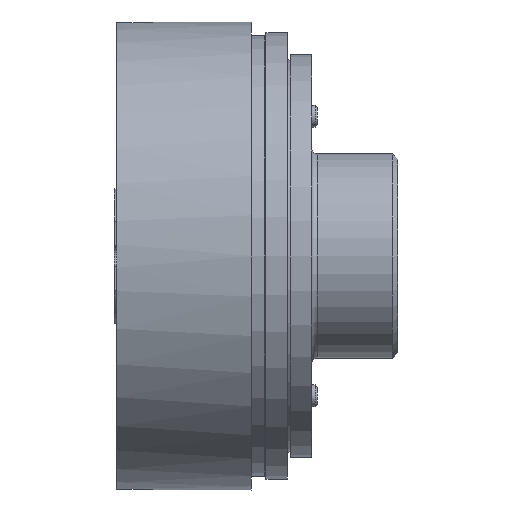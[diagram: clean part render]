
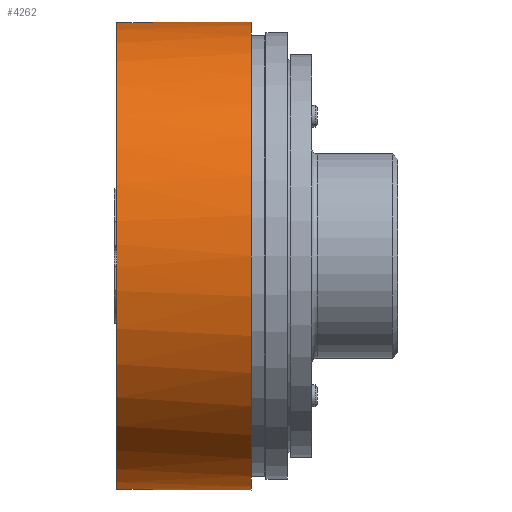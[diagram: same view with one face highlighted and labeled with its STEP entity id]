
A CAD part, front view. The second image highlights one B-rep face of the part: STEP entity #4262.
In plain terms, the highlighted cylindrical face has radius 43.5 mm (diameter 87 mm), a full revolution.
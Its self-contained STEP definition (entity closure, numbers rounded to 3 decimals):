
#161=FACE_BOUND('',#1149,.T.);
#162=FACE_BOUND('',#1150,.T.);
#253=LINE('',#6228,#396);
#254=LINE('',#6230,#397);
#396=VECTOR('',#4937,0.5);
#397=VECTOR('',#4938,0.5);
#814=FACE_OUTER_BOUND('',#1148,.T.);
#1148=EDGE_LOOP('',(#3423,#3424));
#1149=EDGE_LOOP('',(#3425,#3426,#3427,#3428,#3429,#3430));
#1150=EDGE_LOOP('',(#3431));
#1531=CIRCLE('',#4708,43.5);
#1532=CIRCLE('',#4710,43.5);
#1544=CIRCLE('',#4735,43.5);
#1633=B_SPLINE_CURVE_WITH_KNOTS('',3,(#6184,#6185,#6186,#6187,#6188,#6189,
#6190,#6191,#6192,#6193,#6194,#6195,#6196,#6197,#6198,#6199,#6200,#6201),
 .UNSPECIFIED.,.F.,.F.,(4,2,2,2,2,2,2,2,4),(0.452,0.565,
0.678,0.791,0.904,1.017,1.13,
1.243,1.357),.UNSPECIFIED.);
#1634=B_SPLINE_CURVE_WITH_KNOTS('',3,(#6206,#6207,#6208,#6209,#6210,#6211,
#6212,#6213,#6214,#6215,#6216,#6217,#6218,#6219,#6220,#6221,#6222,#6223,
#6224),.UNSPECIFIED.,.F.,.F.,(4,2,2,2,3,2,2,2,4),(1.357,1.47,
1.583,1.696,1.809,1.922,2.035,
2.148,2.261),.UNSPECIFIED.);
#1713=VERTEX_POINT('',#6182);
#1714=VERTEX_POINT('',#6183);
#1716=VERTEX_POINT('',#6227);
#1717=VERTEX_POINT('',#6229);
#1964=VERTEX_POINT('',#8091);
#1969=VERTEX_POINT('',#8105);
#1970=VERTEX_POINT('',#8113);
#2107=EDGE_CURVE('',#1713,#1714,#1633,.T.);
#2110=EDGE_CURVE('',#1714,#1713,#1634,.T.);
#2112=EDGE_CURVE('',#1716,#1713,#253,.T.);
#2113=EDGE_CURVE('',#1714,#1717,#254,.T.);
#2482=EDGE_CURVE('',#1969,#1964,#1531,.T.);
#2483=EDGE_CURVE('',#1970,#1970,#1532,.T.);
#2495=EDGE_CURVE('',#1964,#1969,#1544,.T.);
#3423=ORIENTED_EDGE('',*,*,#2495,.T.);
#3424=ORIENTED_EDGE('',*,*,#2482,.T.);
#3425=ORIENTED_EDGE('',*,*,#2107,.T.);
#3426=ORIENTED_EDGE('',*,*,#2113,.T.);
#3427=ORIENTED_EDGE('',*,*,#2113,.F.);
#3428=ORIENTED_EDGE('',*,*,#2110,.T.);
#3429=ORIENTED_EDGE('',*,*,#2112,.F.);
#3430=ORIENTED_EDGE('',*,*,#2112,.T.);
#3431=ORIENTED_EDGE('',*,*,#2483,.F.);
#3793=CYLINDRICAL_SURFACE('',#4736,43.5);
#4262=ADVANCED_FACE('',(#814,#161,#162),#3793,.T.);
#4708=AXIS2_PLACEMENT_3D('',#8111,#5714,#5715);
#4710=AXIS2_PLACEMENT_3D('',#8114,#5718,#5719);
#4735=AXIS2_PLACEMENT_3D('',#8148,#5768,#5769);
#4736=AXIS2_PLACEMENT_3D('',#8149,#5770,#5771);
#4937=DIRECTION('',(1.,0.,0.));
#4938=DIRECTION('',(1.,0.,0.));
#5714=DIRECTION('center_axis',(1.,0.,0.));
#5715=DIRECTION('ref_axis',(0.,0.,-1.));
#5718=DIRECTION('center_axis',(1.,0.,0.));
#5719=DIRECTION('ref_axis',(0.,0.,-1.));
#5768=DIRECTION('center_axis',(1.,0.,0.));
#5769=DIRECTION('ref_axis',(0.,0.,-1.));
#5770=DIRECTION('center_axis',(1.,0.,0.));
#5771=DIRECTION('ref_axis',(0.,1.,0.));
#6182=CARTESIAN_POINT('',(-9.5,43.5,0.));
#6183=CARTESIAN_POINT('',(-3.5,43.5,0.));
#6184=CARTESIAN_POINT('Ctrl Pts',(-9.5,43.5,0.));
#6185=CARTESIAN_POINT('Ctrl Pts',(-9.5,43.5,-0.377));
#6186=CARTESIAN_POINT('Ctrl Pts',(-9.425,43.495,-0.779));
#6187=CARTESIAN_POINT('Ctrl Pts',(-9.118,43.475,-1.518));
#6188=CARTESIAN_POINT('Ctrl Pts',(-8.888,43.461,-1.855));
#6189=CARTESIAN_POINT('Ctrl Pts',(-8.355,43.435,-2.388));
#6190=CARTESIAN_POINT('Ctrl Pts',(-8.018,43.421,-2.618));
#6191=CARTESIAN_POINT('Ctrl Pts',(-7.279,43.402,-2.925));
#6192=CARTESIAN_POINT('Ctrl Pts',(-6.877,43.396,-3.));
#6193=CARTESIAN_POINT('Ctrl Pts',(-6.123,43.396,-3.));
#6194=CARTESIAN_POINT('Ctrl Pts',(-5.721,43.402,-2.925));
#6195=CARTESIAN_POINT('Ctrl Pts',(-4.982,43.421,-2.618));
#6196=CARTESIAN_POINT('Ctrl Pts',(-4.645,43.435,-2.388));
#6197=CARTESIAN_POINT('Ctrl Pts',(-4.112,43.461,-1.855));
#6198=CARTESIAN_POINT('Ctrl Pts',(-3.882,43.475,-1.518));
#6199=CARTESIAN_POINT('Ctrl Pts',(-3.575,43.495,-0.779));
#6200=CARTESIAN_POINT('Ctrl Pts',(-3.5,43.5,-0.377));
#6201=CARTESIAN_POINT('Ctrl Pts',(-3.5,43.5,0.));
#6206=CARTESIAN_POINT('Ctrl Pts',(-3.5,43.5,0.));
#6207=CARTESIAN_POINT('Ctrl Pts',(-3.5,43.5,0.377));
#6208=CARTESIAN_POINT('Ctrl Pts',(-3.575,43.495,0.779));
#6209=CARTESIAN_POINT('Ctrl Pts',(-3.882,43.475,1.518));
#6210=CARTESIAN_POINT('Ctrl Pts',(-4.112,43.461,1.855));
#6211=CARTESIAN_POINT('Ctrl Pts',(-4.645,43.435,2.388));
#6212=CARTESIAN_POINT('Ctrl Pts',(-4.982,43.421,2.618));
#6213=CARTESIAN_POINT('Ctrl Pts',(-5.721,43.402,2.925));
#6214=CARTESIAN_POINT('Ctrl Pts',(-6.123,43.396,3.));
#6215=CARTESIAN_POINT('Ctrl Pts',(-6.5,43.396,3.));
#6216=CARTESIAN_POINT('Ctrl Pts',(-6.877,43.396,3.));
#6217=CARTESIAN_POINT('Ctrl Pts',(-7.279,43.402,2.925));
#6218=CARTESIAN_POINT('Ctrl Pts',(-8.018,43.421,2.618));
#6219=CARTESIAN_POINT('Ctrl Pts',(-8.355,43.435,2.388));
#6220=CARTESIAN_POINT('Ctrl Pts',(-8.888,43.461,1.855));
#6221=CARTESIAN_POINT('Ctrl Pts',(-9.118,43.475,1.518));
#6222=CARTESIAN_POINT('Ctrl Pts',(-9.425,43.495,0.779));
#6223=CARTESIAN_POINT('Ctrl Pts',(-9.5,43.5,0.377));
#6224=CARTESIAN_POINT('Ctrl Pts',(-9.5,43.5,0.));
#6227=CARTESIAN_POINT('',(-10.,43.5,0.));
#6228=CARTESIAN_POINT('',(0.,43.5,0.));
#6229=CARTESIAN_POINT('',(-3.,43.5,0.));
#6230=CARTESIAN_POINT('',(0.,43.5,0.));
#8091=CARTESIAN_POINT('',(-12.5,-43.012,-6.5));
#8105=CARTESIAN_POINT('',(-12.5,-43.012,6.5));
#8111=CARTESIAN_POINT('Origin',(-12.5,0.,0.));
#8113=CARTESIAN_POINT('',(12.5,43.5,0.));
#8114=CARTESIAN_POINT('Origin',(12.5,0.,0.));
#8148=CARTESIAN_POINT('Origin',(-12.5,0.,0.));
#8149=CARTESIAN_POINT('Origin',(0.,0.,0.));
